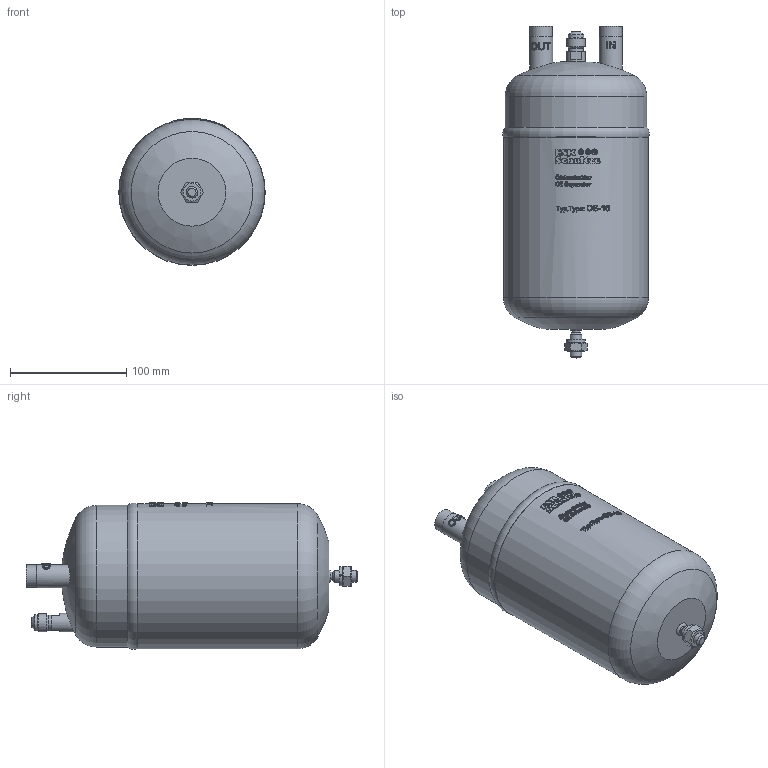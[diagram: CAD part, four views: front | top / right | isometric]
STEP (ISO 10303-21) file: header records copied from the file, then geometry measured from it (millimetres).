
FILE_DESCRIPTION(/* description */ (''),/* implementation_level */ '2;1');
FILE_NAME(/* name */ 'P:\OS\OS-16\OS-16.stp',/* time_stamp */ '2017-10-04T07:56:44+02:00',/* author */ ('neufeld'),/* organization */ (''),/* preprocessor_version */ 'ST-DEVELOPER v16.1',/* originating_system */ 'Autodesk Inventor 2016',/* authorisation */ '');
FILE_SCHEMA (('AUTOMOTIVE_DESIGN { 1 0 10303 214 3 1 1 }'));
Products named in the file (2): OS-16; OS-16_1
Assembly tree (1 placements, depth 2):
  OS-16_1
    OS-16
Bounding box: 126.13 x 286 x 126.56 mm (x, y, z)
Volume: 2625784.1 mm3; surface area: 111601.6 mm2
Topology: 1 solids, 1 shells, 966 faces, 2606 edges, 1732 vertices
Faces by surface type: plane 498, bspline 353, cylinder 99, cone 11, torus 4, sphere 1
Full cylindrical faces by diameter (mm): 7 x1, 7.2 x1, 10 x2, 12.9 x1, 13.5 x1, 15.7 x1, 16 x1, 16.2 x2, 19.4 x2, 20 x2, 122 x1, 125 x1
Entity records: 42705 total; most frequent: CARTESIAN_POINT 20446, ORIENTED_EDGE 5132, DIRECTION 3705, EDGE_CURVE 2566, VERTEX_POINT 1723, AXIS2_PLACEMENT_3D 1268, LINE 1169, VECTOR 1169
